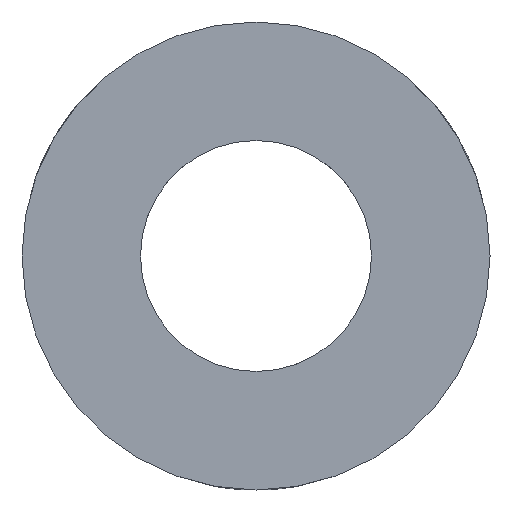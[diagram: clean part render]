
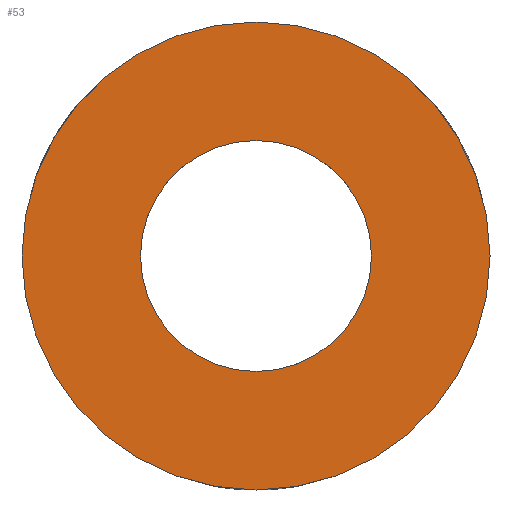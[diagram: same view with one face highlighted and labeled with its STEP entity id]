
A CAD part, left-side view. The second image highlights one B-rep face of the part: STEP entity #53.
In plain terms, the highlighted planar face has unit normal (-1, 0, 0).
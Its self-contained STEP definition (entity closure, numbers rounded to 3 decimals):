
#53 = ADVANCED_FACE( '', ( #111, #112 ), #113, .T. );
#111 = FACE_OUTER_BOUND( '', #169, .T. );
#112 = FACE_BOUND( '', #170, .T. );
#113 = PLANE( '', #171 );
#169 = EDGE_LOOP( '', ( #441 ) );
#170 = EDGE_LOOP( '', ( #442 ) );
#171 = AXIS2_PLACEMENT_3D( '', #443, #444, #445 );
#441 = ORIENTED_EDGE( '', *, *, #887, .F. );
#442 = ORIENTED_EDGE( '', *, *, #902, .F. );
#443 = CARTESIAN_POINT( '', ( -85.725, 0., 0. ) );
#444 = DIRECTION( '', ( -1., 0., 0. ) );
#445 = DIRECTION( '', ( 0., 0., 1. ) );
#887 = EDGE_CURVE( '', #3508, #3508, #3509, .T. );
#902 = EDGE_CURVE( '', #3531, #3531, #3532, .T. );
#3508 = VERTEX_POINT( '', #3733 );
#3509 = CIRCLE( '', #3734, 17.145 );
#3531 = VERTEX_POINT( '', #3882 );
#3532 = CIRCLE( '', #3883, 8.459 );
#3733 = CARTESIAN_POINT( '', ( -85.725, 0., 17.145 ) );
#3734 = AXIS2_PLACEMENT_3D( '', #3951, #3952, #3953 );
#3882 = CARTESIAN_POINT( '', ( -85.725, -8.459, 0. ) );
#3883 = AXIS2_PLACEMENT_3D( '', #3969, #3970, #3971 );
#3951 = CARTESIAN_POINT( '', ( -85.725, 0., 0. ) );
#3952 = DIRECTION( '', ( 1., 0., 0. ) );
#3953 = DIRECTION( '', ( 0., 0., 1. ) );
#3969 = CARTESIAN_POINT( '', ( -85.725, 0., 0. ) );
#3970 = DIRECTION( '', ( -1., 0., 0. ) );
#3971 = DIRECTION( '', ( 0., -1., 0. ) );
